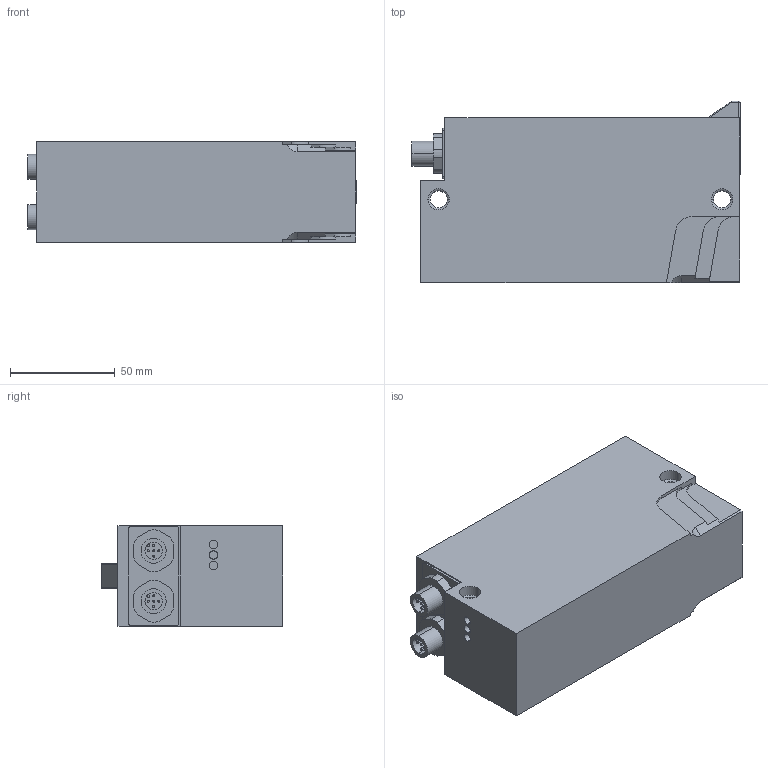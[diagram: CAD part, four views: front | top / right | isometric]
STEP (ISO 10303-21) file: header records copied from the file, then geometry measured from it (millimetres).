
FILE_DESCRIPTION (( 'STEP AP203' ), '1' );
FILE_NAME ('ELD-140-08-5A_78,5.STEP', '2019-07-04T09:15:09', ( '' ), ( '' ), 'SwSTEP 2.0', 'SolidWorks 2017', '' );
FILE_SCHEMA (( 'CONFIG_CONTROL_DESIGN' ));
Length unit declared in the file: millimetre
Products named in the file (1): ELD-140-08-5A_78,5
Bounding box: 156.27 x 86.5 x 48 mm (x, y, z)
Volume: 516025 mm3; surface area: 77270 mm2
Topology: 2 solids, 2 shells, 214 faces, 538 edges, 342 vertices
Faces by surface type: plane 109, cylinder 93, cone 8, sphere 4
Entity records: 6469 total; most frequent: DIRECTION 1148, CARTESIAN_POINT 1115, ORIENTED_EDGE 1068, EDGE_CURVE 534, AXIS2_PLACEMENT_3D 407, VERTEX_POINT 342, LINE 334, VECTOR 334
